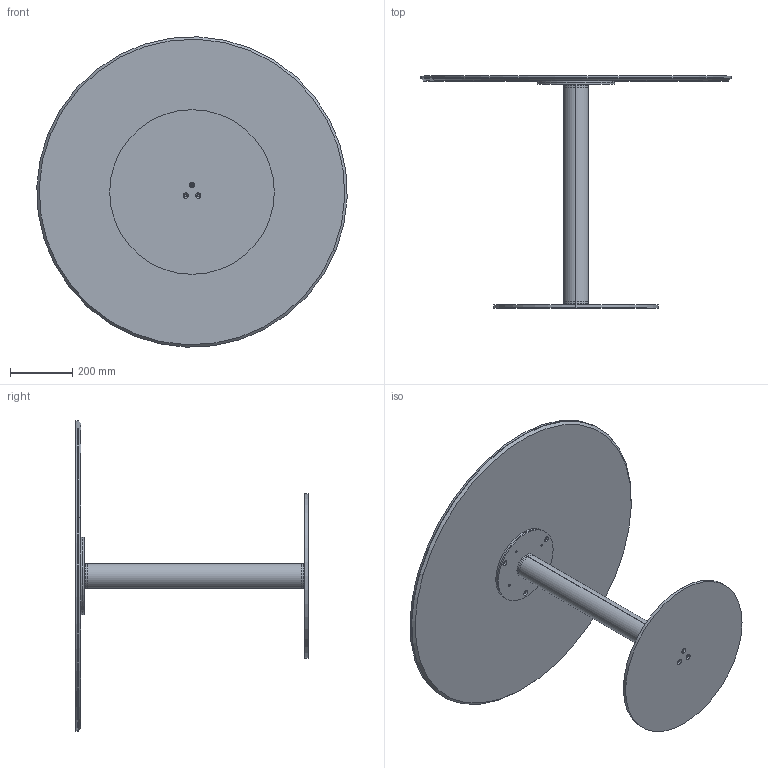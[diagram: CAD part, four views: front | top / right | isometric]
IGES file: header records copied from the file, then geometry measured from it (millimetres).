
Start section: SolidWorks IGES file using analytic representation for surfaces
Global section: file name: Y:\eforma\TECNICO\SOLIDWORKS\E-FORMA\5-TAVOLINI BISTRO\CILINDRO BISTRÒ\02 parts\CB35C.IGS; native system: SolidWorks 2022; preprocessor: SolidWorks 2022; author: eforma.tech; date: 240808.102426; units: millimetre
Bounding box: 999.3 x 747 x 999.3 mm (x, y, z)
Volume: 15604630.6 mm3; surface area: 4214804.1 mm2
Topology: 10 solids, 10 shells, 171 faces, 404 edges, 252 vertices
Faces by surface type: revolution 136, plane 32, bspline 3
